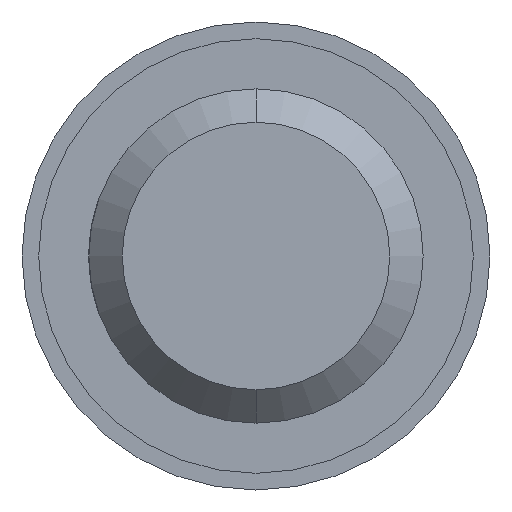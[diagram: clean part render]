
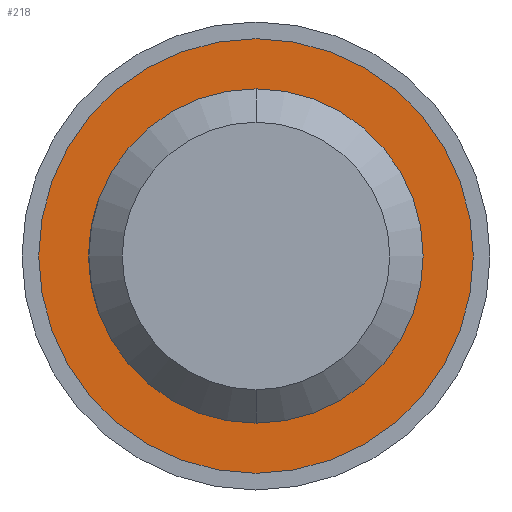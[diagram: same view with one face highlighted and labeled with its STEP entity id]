
A CAD part, left-side view. The second image highlights one B-rep face of the part: STEP entity #218.
In plain terms, the highlighted planar face has unit normal (-1, 0, 0).
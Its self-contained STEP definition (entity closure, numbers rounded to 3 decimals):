
#13 = VERTEX_POINT ( 'NONE', #308 ) ;
#15 = VERTEX_POINT ( 'NONE', #306 ) ;
#17 = EDGE_CURVE ( 'NONE', #15, #13, #305, .T. ) ;
#136 = EDGE_CURVE ( 'NONE', #137, #138, #567, .T. ) ;
#137 = VERTEX_POINT ( 'NONE', #563 ) ;
#138 = VERTEX_POINT ( 'NONE', #562 ) ;
#218 = ADVANCED_FACE ( 'NONE', ( #728, #727 ), #726, .T. ) ;
#219 = EDGE_LOOP ( 'NONE', ( #260, #261 ) ) ;
#260 = ORIENTED_EDGE ( 'NONE', *, *, #17, .T. ) ;
#261 = ORIENTED_EDGE ( 'NONE', *, *, #919, .T. ) ;
#262 = EDGE_LOOP ( 'NONE', ( #263, #264 ) ) ;
#263 = ORIENTED_EDGE ( 'NONE', *, *, #136, .F. ) ;
#264 = ORIENTED_EDGE ( 'NONE', *, *, #265, .F. ) ;
#265 = EDGE_CURVE ( 'NONE', #138, #137, #743, .T. ) ;
#301 = DIRECTION ( 'NONE',  ( 0., 1., 0. ) ) ;
#302 = DIRECTION ( 'NONE',  ( 1., 0., 0. ) ) ;
#303 = CARTESIAN_POINT ( 'NONE',  ( 29.658, 0., 0. ) ) ;
#304 = AXIS2_PLACEMENT_3D ( 'NONE', #303, #302, #301 ) ;
#305 = CIRCLE ( 'NONE', #304, 5. ) ;
#306 = CARTESIAN_POINT ( 'NONE',  ( 29.658, 5., 0. ) ) ;
#308 = CARTESIAN_POINT ( 'NONE',  ( 29.658, -5., 0. ) ) ;
#562 = CARTESIAN_POINT ( 'NONE',  ( 29.658, -6.5, 0. ) ) ;
#563 = CARTESIAN_POINT ( 'NONE',  ( 29.658, 6.5, 0. ) ) ;
#564 = DIRECTION ( 'NONE',  ( 0., 1., 0. ) ) ;
#565 = DIRECTION ( 'NONE',  ( 1., 0., 0. ) ) ;
#566 = AXIS2_PLACEMENT_3D ( 'NONE', #572, #565, #564 ) ;
#567 = CIRCLE ( 'NONE', #566, 6.5 ) ;
#572 = CARTESIAN_POINT ( 'NONE',  ( 29.658, 0., 0. ) ) ;
#722 = DIRECTION ( 'NONE',  ( 0., -1., 0. ) ) ;
#723 = DIRECTION ( 'NONE',  ( -1., 0., 0. ) ) ;
#724 = CARTESIAN_POINT ( 'NONE',  ( 29.658, 5.75, 0. ) ) ;
#725 = AXIS2_PLACEMENT_3D ( 'NONE', #724, #723, #722 ) ;
#726 = PLANE ( 'NONE',  #725 ) ;
#727 = FACE_OUTER_BOUND ( 'NONE', #262, .T. ) ;
#728 = FACE_BOUND ( 'NONE', #219, .T. ) ;
#743 = CIRCLE ( 'NONE', #789, 6.5 ) ;
#786 = DIRECTION ( 'NONE',  ( 0., 1., 0. ) ) ;
#787 = DIRECTION ( 'NONE',  ( 1., 0., 0. ) ) ;
#788 = CARTESIAN_POINT ( 'NONE',  ( 29.658, 0., 0. ) ) ;
#789 = AXIS2_PLACEMENT_3D ( 'NONE', #788, #787, #786 ) ;
#798 = DIRECTION ( 'NONE',  ( 1., 0., 0. ) ) ;
#799 = CARTESIAN_POINT ( 'NONE',  ( 29.658, 0., 0. ) ) ;
#800 = AXIS2_PLACEMENT_3D ( 'NONE', #799, #798, #864 ) ;
#801 = CIRCLE ( 'NONE', #800, 5. ) ;
#864 = DIRECTION ( 'NONE',  ( 0., 1., 0. ) ) ;
#919 = EDGE_CURVE ( 'NONE', #13, #15, #801, .T. ) ;
